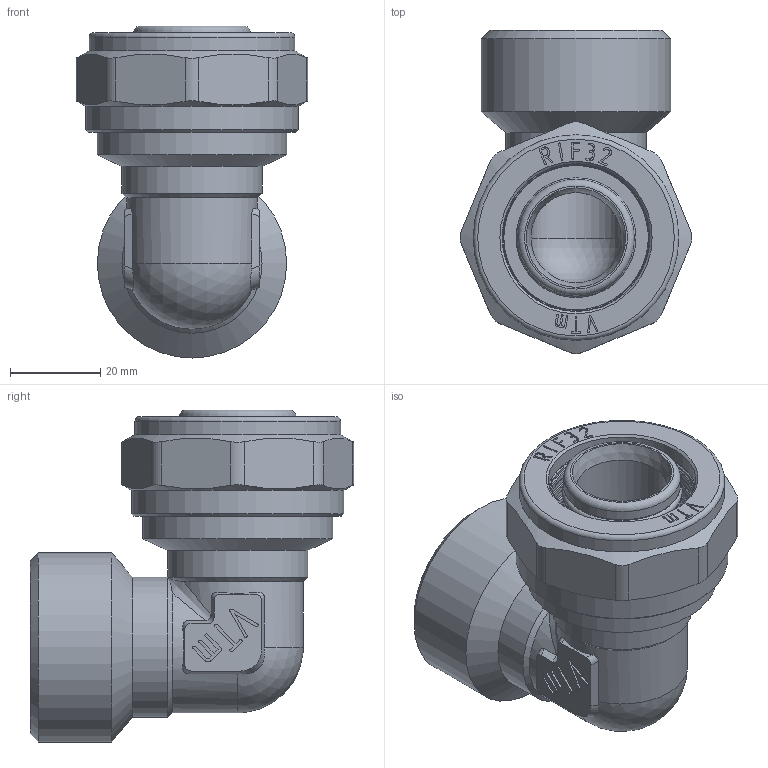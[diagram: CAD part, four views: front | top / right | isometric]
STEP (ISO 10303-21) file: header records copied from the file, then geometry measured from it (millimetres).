
FILE_DESCRIPTION(('STEP AP203'), '1');
FILE_NAME('VTm.353.N.003207', '', ('UNSPECIFIED'), ('UNSPECIFIED'), 'C3D Converter', 'C3D Toolkit', '');
FILE_SCHEMA(('CONFIG_CONTROL_DESIGN'));
Length unit declared in the file: millimetre
Products named in the file (1): ВР.302635.114.000 СБ
Bounding box: 51.3 x 71.55 x 73.45 mm (x, y, z)
Volume: 61408.9 mm3; surface area: 30241.1 mm2
Topology: 1 solids, 1 shells, 467 faces, 1281 edges, 842 vertices
Faces by surface type: extrusion 207, plane 153, cylinder 55, torus 29, cone 19, bspline 2, sphere 2
Full cylindrical faces by diameter (mm): 20 x2, 22.8 x4, 25.8 x5, 26 x1, 31 x2, 32 x1, 32.1 x1, 32.2 x1, 32.7 x1, 40.376 x1, 41.91 x1, 42 x1, 45.5 x1, 47 x1
Entity records: 17166 total; most frequent: CARTESIAN_POINT 6516, ORIENTED_EDGE 2454, DIRECTION 1514, EDGE_CURVE 1227, VERTEX_POINT 842, VECTOR 772, B_SPLINE_CURVE_WITH_KNOTS 719, LINE 565
